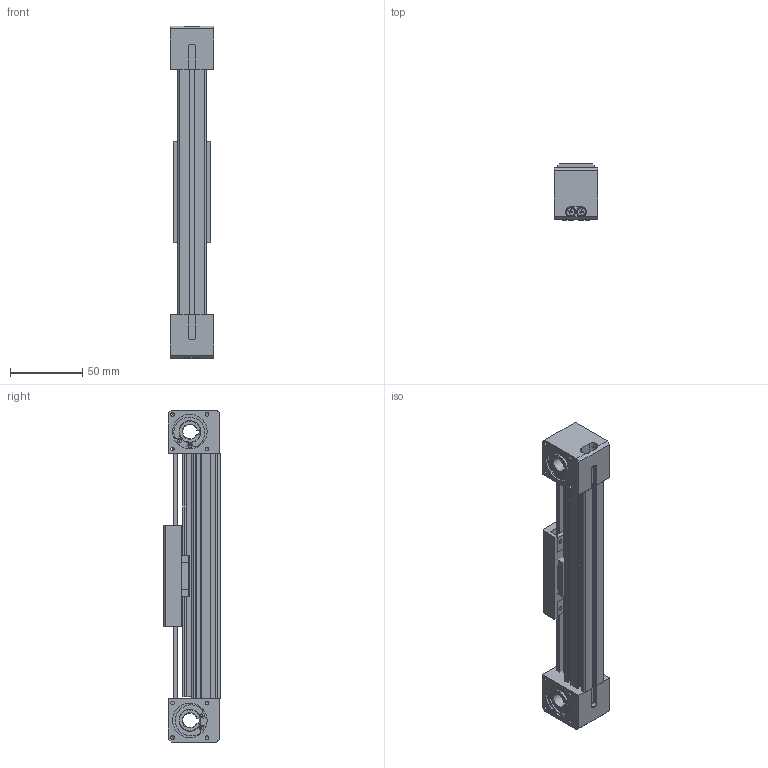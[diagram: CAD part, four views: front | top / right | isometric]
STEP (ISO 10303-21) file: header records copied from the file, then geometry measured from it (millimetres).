
FILE_DESCRIPTION (( 'STEP AP214' ), '1' );
FILE_NAME ('WMAS-020-0100 (3D).STEP', '2024-08-29T05:03:49', ( '' ), ( '' ), 'SwSTEP 2.0', 'SolidWorks 2023', '' );
FILE_SCHEMA (( 'AUTOMOTIVE_DESIGN' ));
Length unit declared in the file: millimetre
Products named in the file (3): Group1^WMAS-020-0100 (3D); Group2^WMAS-020-0100 (3D); WMAS-020-0100 (3D)
Assembly tree (2 placements, depth 2):
  WMAS-020-0100 (3D)
    Group1^WMAS-020-0100 (3D)
    Group2^WMAS-020-0100 (3D)
Bounding box: 30 x 39 x 230 mm (x, y, z)
Volume: 143678.5 mm3; surface area: 75814.7 mm2
Topology: 28 solids, 46 shells, 1282 faces, 3154 edges, 2016 vertices
Faces by surface type: plane 798, cylinder 237, cone 171, bspline 52, torus 24
Full cylindrical faces by diameter (mm): 1.2 x2, 2 x16, 2.2 x1, 2.5 x24, 3 x28, 3.4 x12, 5.5 x8, 5.7 x16, 5.94 x1, 15 x6, 24 x4, 25.2 x4
Entity records: 38159 total; most frequent: CARTESIAN_POINT 9221, DIRECTION 5803, ORIENTED_EDGE 5606, EDGE_CURVE 2803, AXIS2_PLACEMENT_3D 1990, VERTEX_POINT 1906, VECTOR 1823, LINE 1823
